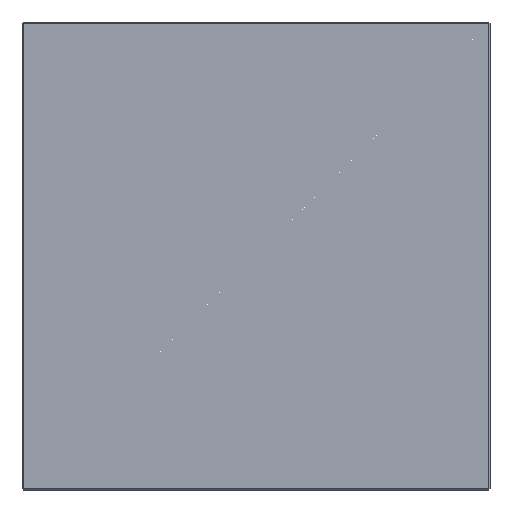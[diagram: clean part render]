
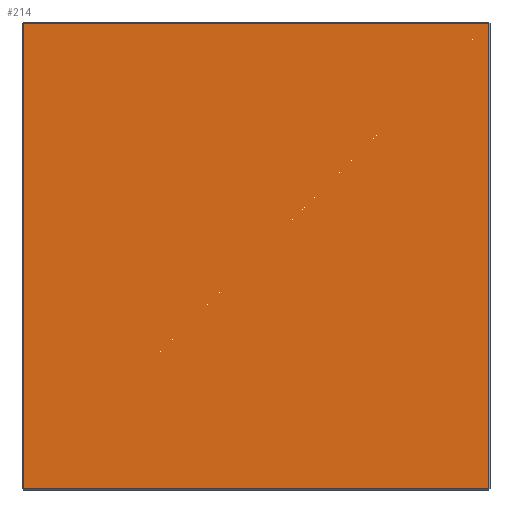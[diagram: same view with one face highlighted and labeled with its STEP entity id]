
A CAD part, front view. The second image highlights one B-rep face of the part: STEP entity #214.
In plain terms, the highlighted planar face has unit normal (0, -1, 0).
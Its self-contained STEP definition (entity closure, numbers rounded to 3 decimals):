
#18 = PLANE ( 'NONE',  #235 ) ;
#38 = ORIENTED_EDGE ( 'NONE', *, *, #420, .T. ) ;
#54 = ORIENTED_EDGE ( 'NONE', *, *, #69, .T. ) ;
#55 = ORIENTED_EDGE ( 'NONE', *, *, #77, .T. ) ;
#69 = EDGE_CURVE ( 'NONE', #555, #331, #455, .T. ) ;
#77 = EDGE_CURVE ( 'NONE', #147, #224, #356, .T. ) ;
#85 = LINE ( 'NONE', #313, #328 ) ;
#99 = DIRECTION ( 'NONE',  ( 0., 0., -1. ) ) ;
#116 = CARTESIAN_POINT ( 'NONE',  ( -172., 0., 0. ) ) ;
#133 = VECTOR ( 'NONE', #318, 1000. ) ;
#140 = CARTESIAN_POINT ( 'NONE',  ( -172., 0., 172. ) ) ;
#142 = LINE ( 'NONE', #577, #133 ) ;
#147 = VERTEX_POINT ( 'NONE', #225 ) ;
#214 = ADVANCED_FACE ( 'NONE', ( #274 ), #18, .F. ) ;
#221 = ORIENTED_EDGE ( 'NONE', *, *, #349, .T. ) ;
#224 = VERTEX_POINT ( 'NONE', #590 ) ;
#225 = CARTESIAN_POINT ( 'NONE',  ( 172., 0., -172. ) ) ;
#235 = AXIS2_PLACEMENT_3D ( 'NONE', #496, #607, #603 ) ;
#274 = FACE_OUTER_BOUND ( 'NONE', #508, .T. ) ;
#310 = DIRECTION ( 'NONE',  ( -1., 0., 0. ) ) ;
#313 = CARTESIAN_POINT ( 'NONE',  ( 0., 0., 172. ) ) ;
#315 = VECTOR ( 'NONE', #554, 1000. ) ;
#318 = DIRECTION ( 'NONE',  ( 1., 0., 0. ) ) ;
#328 = VECTOR ( 'NONE', #310, 1000. ) ;
#331 = VERTEX_POINT ( 'NONE', #379 ) ;
#349 = EDGE_CURVE ( 'NONE', #331, #147, #142, .T. ) ;
#356 = LINE ( 'NONE', #558, #315 ) ;
#379 = CARTESIAN_POINT ( 'NONE',  ( -172., 0., -172. ) ) ;
#420 = EDGE_CURVE ( 'NONE', #224, #555, #85, .T. ) ;
#455 = LINE ( 'NONE', #116, #485 ) ;
#485 = VECTOR ( 'NONE', #99, 1000. ) ;
#496 = CARTESIAN_POINT ( 'NONE',  ( 0., 0., 0. ) ) ;
#508 = EDGE_LOOP ( 'NONE', ( #55, #38, #54, #221 ) ) ;
#554 = DIRECTION ( 'NONE',  ( 0., 0., 1. ) ) ;
#555 = VERTEX_POINT ( 'NONE', #140 ) ;
#558 = CARTESIAN_POINT ( 'NONE',  ( 172., 0., 0. ) ) ;
#577 = CARTESIAN_POINT ( 'NONE',  ( 0., 0., -172. ) ) ;
#590 = CARTESIAN_POINT ( 'NONE',  ( 172., 0., 172. ) ) ;
#603 = DIRECTION ( 'NONE',  ( 0., 0., 1. ) ) ;
#607 = DIRECTION ( 'NONE',  ( 0., 1., 0. ) ) ;
